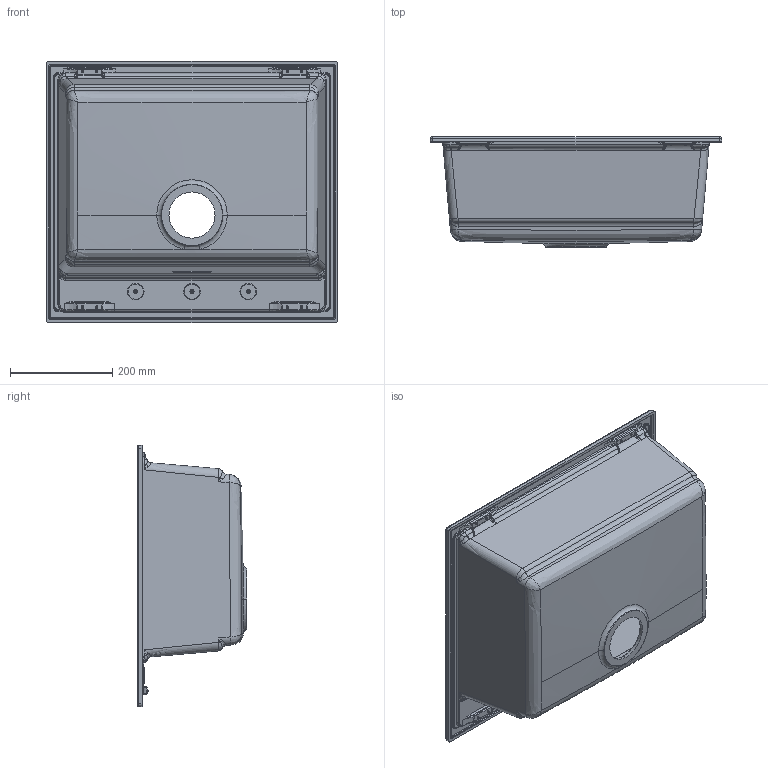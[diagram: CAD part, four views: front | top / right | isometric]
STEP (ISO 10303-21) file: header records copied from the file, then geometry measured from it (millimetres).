
FILE_DESCRIPTION (( 'STEP AP203' ), '1' );
FILE_NAME ('3d_best_105.STEP', '2023-01-11T08:02:18', ( '' ), ( '' ), 'SwSTEP 2.0', 'SolidWorks 2021', '' );
FILE_SCHEMA (( 'CONFIG_CONTROL_DESIGN' ));
Length unit declared in the file: millimetre
Products named in the file (2): BEST105_SBORDATO.STEP; 3d_best_105
Assembly tree (1 placements, depth 2):
  3d_best_105
    BEST105_SBORDATO.STEP
Bounding box: 570 x 214.77 x 510 mm (x, y, z)
Volume: 4601336.1 mm3; surface area: 1156847.3 mm2
Topology: 1 solids, 1 shells, 538 faces, 1265 edges, 690 vertices
Faces by surface type: bspline 263, cylinder 133, torus 65, plane 59, cone 13, sphere 5
Entity records: 29730 total; most frequent: CARTESIAN_POINT 19482, ORIENTED_EDGE 2418, DIRECTION 1708, EDGE_CURVE 1209, AXIS2_PLACEMENT_3D 732, VERTEX_POINT 690, EDGE_LOOP 559, FACE_OUTER_BOUND 538
